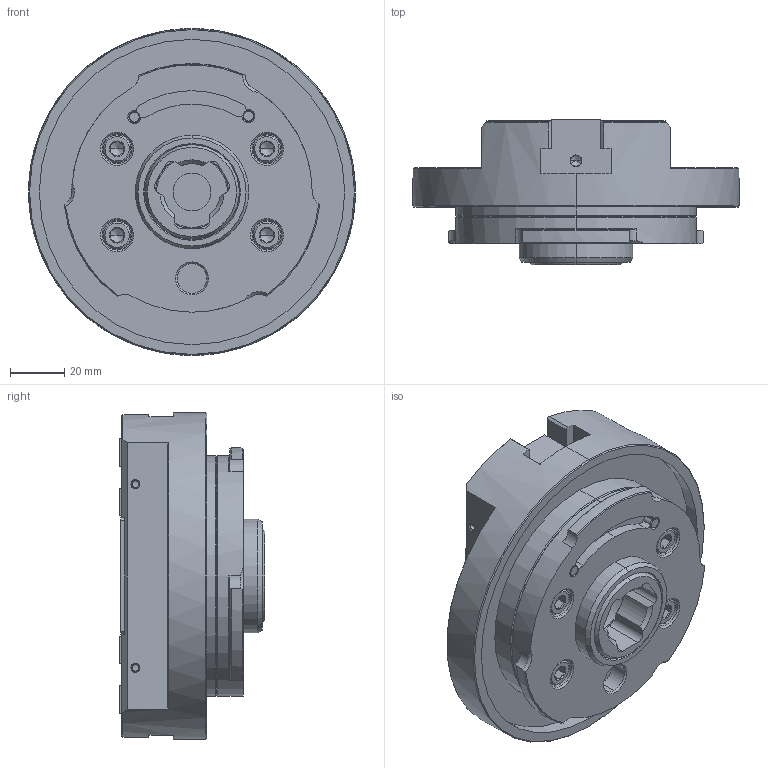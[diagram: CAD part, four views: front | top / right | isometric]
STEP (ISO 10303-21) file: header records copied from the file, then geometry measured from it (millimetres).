
FILE_DESCRIPTION (( 'STEP AP214' ), '1' );
FILE_NAME ('QGB21112-OC.STEP', '2026-01-08T02:56:15', ( '' ), ( '' ), 'SwSTEP 2.0', 'SolidWorks 2022', '' );
FILE_SCHEMA (( 'AUTOMOTIVE_DESIGN' ));
Length unit declared in the file: millimetre
Products named in the file (8): BOLT^ASSY_HP-QG21112-Assy-61G299499-20260105; MAIN-OC^HP-QG21112-Assy-61G299499-20260105; ASSY^HP-QG21112-Assy-61G299499-20260105_OC（閉端）; MASTER JAW^ASSY_HP-QG21112-Assy-61G299499-20260105; COVER^ASSY_HP-QG21112-Assy-61G299499-20260105; QGB21112-OC; S-SARA^ASSY_HP-QG21112-Assy-61G299499-20260105; PARALLEL PIN^ASSY_HP-QG21112-Assy-61G299499-20260105
Assembly tree (15 placements, depth 3):
  QGB21112-OC
    ASSY^HP-QG21112-Assy-61G299499-20260105_OC（閉端）
      MASTER JAW^ASSY_HP-QG21112-Assy-61G299499-20260105  x2
      COVER^ASSY_HP-QG21112-Assy-61G299499-20260105
      BOLT^ASSY_HP-QG21112-Assy-61G299499-20260105  x4
      S-SARA^ASSY_HP-QG21112-Assy-61G299499-20260105  x4
      PARALLEL PIN^ASSY_HP-QG21112-Assy-61G299499-20260105  x2
    MAIN-OC^HP-QG21112-Assy-61G299499-20260105
Bounding box: 121 x 53.9 x 121 mm (x, y, z)
Volume: 335816 mm3; surface area: 74964.8 mm2
Topology: 14 solids, 14 shells, 1641 faces, 4477 edges, 2914 vertices
Faces by surface type: plane 1155, cylinder 197, cone 181, bspline 100, torus 8
Entity records: 52556 total; most frequent: CARTESIAN_POINT 14299, ORIENTED_EDGE 7930, DIRECTION 6758, EDGE_CURVE 3965, LINE 3240, VECTOR 3240, VERTEX_POINT 2608, AXIS2_PLACEMENT_3D 1759
